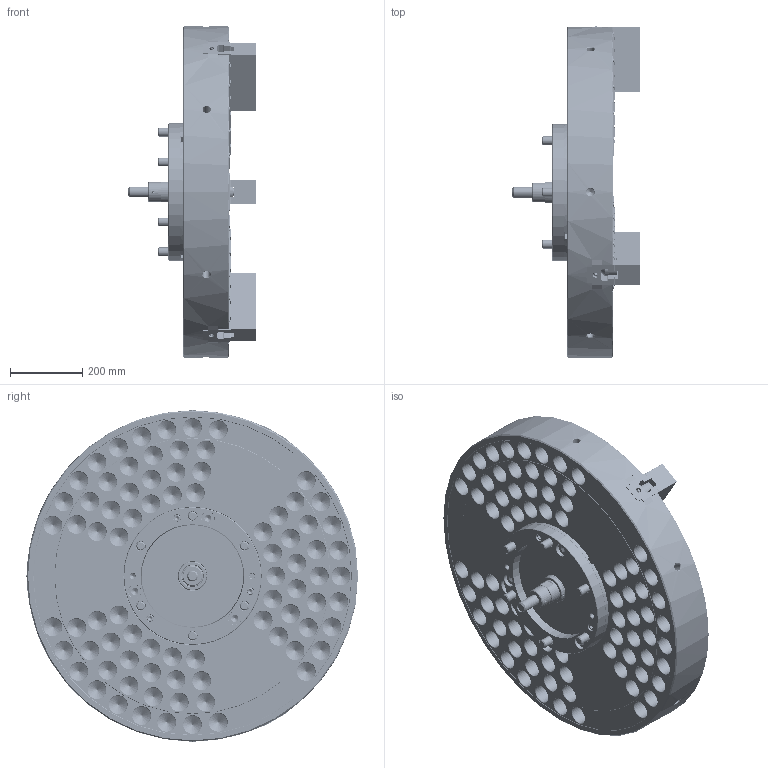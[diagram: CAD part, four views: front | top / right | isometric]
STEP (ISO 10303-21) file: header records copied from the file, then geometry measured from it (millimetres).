
FILE_DESCRIPTION (( 'STEP AP214' ), '1' );
FILE_NAME ('DT1_NV36C15_OUTSIDE_VIEW_UC.STEP', '2026-03-24T06:27:28', ( '' ), ( '' ), 'SwSTEP 2.0', 'SolidWorks 2022', '' );
FILE_SCHEMA (( 'AUTOMOTIVE_DESIGN' ));
Length unit declared in the file: millimetre
Products named in the file (18): DT1_NV36C15_M6x12^DT1_NV36C1500; DT1_NV36C15_COVERFOOTER^DT1_NV36C1500; DT1_NV36C15_TNUT^DT1_NV36C1500; Copy of 61P321208^DT1_NV36C1500; DT1_NV36C15_SOFTJAW^DT1_NV36C1500; DT1_NV36C15_DN^DT1_NV36C1500; DT1_NV36C15_ORING^DT1_NV36C1500; DT1_NV36C15_S39^DT1_NV36C1500_円筒用; DT1_NV36C15_CAP^DT1_NV36C1500; DT1_NV36C15_COVER^DT1_NV36C1500; DT1_NV36C15_P80^DT1_NV36C1500_円筒用; DT1_NV36C15_BASE^DT1_NV36C1500; Copy of 0030112055^DT1_NV36C1500; DT1_NV36C15_BP^DT1_NV36C1500; DT1_NV36C15_M20x60^DT1_NV36C1500; DT1_NV36C15_OUTSIDE_VIEW_UC; DT1_NV36C15_DRAWSCREW^DT1_NV36C1500; DT1_NV36C15_M24x160^DT1_NV36C1500
Assembly tree (48 placements, depth 2):
  DT1_NV36C15_OUTSIDE_VIEW_UC
    DT1_NV36C15_SOFTJAW^DT1_NV36C1500  x3
    DT1_NV36C15_TNUT^DT1_NV36C1500  x6
    DT1_NV36C15_COVER^DT1_NV36C1500
    DT1_NV36C15_DRAWSCREW^DT1_NV36C1500
    Copy of 61P321208^DT1_NV36C1500
    DT1_NV36C15_COVERFOOTER^DT1_NV36C1500
    DT1_NV36C15_M6x12^DT1_NV36C1500  x6
    Copy of 0030112055^DT1_NV36C1500  x3
    DT1_NV36C15_M20x60^DT1_NV36C1500  x6
    DT1_NV36C15_M24x160^DT1_NV36C1500  x6
    DT1_NV36C15_S39^DT1_NV36C1500_円筒用
    DT1_NV36C15_P80^DT1_NV36C1500_円筒用
    DT1_NV36C15_CAP^DT1_NV36C1500  x6
    DT1_NV36C15_ORING^DT1_NV36C1500  x3
    DT1_NV36C15_DN^DT1_NV36C1500
    DT1_NV36C15_BP^DT1_NV36C1500
    DT1_NV36C15_BASE^DT1_NV36C1500
Bounding box: 352 x 916.6 x 914 mm (x, y, z)
Volume: 77088643.7 mm3; surface area: 3927816.4 mm2
Topology: 48 solids, 126 shells, 12303 faces, 34376 edges, 22325 vertices
Faces by surface type: plane 7325, cylinder 2458, cone 1308, bspline 1046, torus 160, sphere 6
Entity records: 360577 total; most frequent: CARTESIAN_POINT 106004, ORIENTED_EDGE 56576, DIRECTION 46762, EDGE_CURVE 28288, VECTOR 20322, LINE 20322, VERTEX_POINT 18579, AXIS2_PLACEMENT_3D 13220
